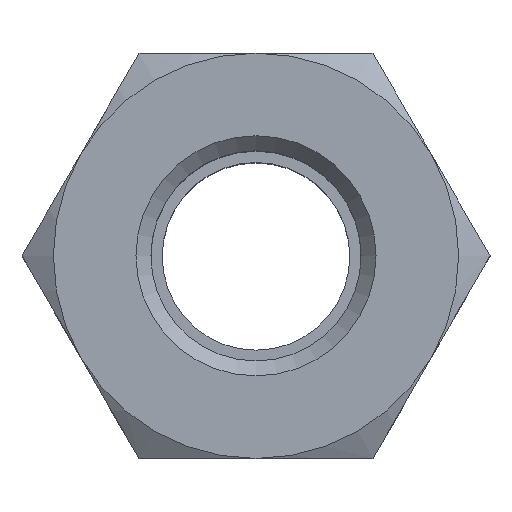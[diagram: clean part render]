
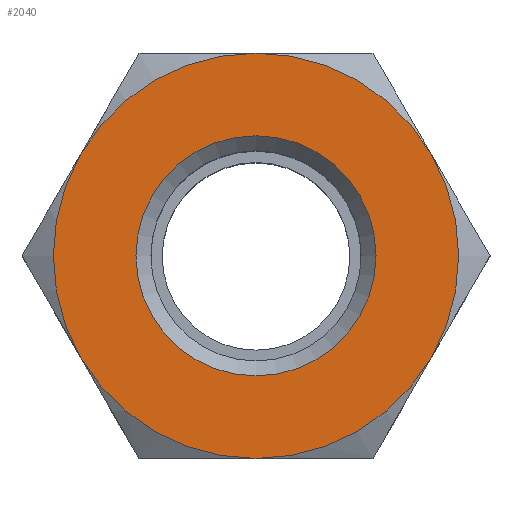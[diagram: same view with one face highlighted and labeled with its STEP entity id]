
A CAD part, top view. The second image highlights one B-rep face of the part: STEP entity #2040.
In plain terms, the highlighted planar face has unit normal (0, 0, 1).
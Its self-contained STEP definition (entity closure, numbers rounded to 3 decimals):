
#2040=ADVANCED_FACE('', (#2050,#2060), #2070, .T.);
#7190=AXIS2_PLACEMENT_3D('Ax2Pl3d', #7200, #7210, #7220);
#7230=AXIS2_PLACEMENT_3D('Ax2Pl3d', #7240, #7250, #7260);
#7270=AXIS2_PLACEMENT_3D('Ax2Pl3d', #7280, #7290, #7300);
#7310=AXIS2_PLACEMENT_3D('Ax2Pl3d', #7320, #7330, #7340);
#7350=AXIS2_PLACEMENT_3D('Ax2Pl3d', #7360, #7370, #7380);
#7390=AXIS2_PLACEMENT_3D('Ax2Pl3d', #7400, #7410, #7420);
#7430=AXIS2_PLACEMENT_3D('Ax2Pl3d', #7440, #7450, #7460);
#7470=AXIS2_PLACEMENT_3D('Ax2Pl3d', #7480, #7490, #7500);
#11460=CARTESIAN_POINT('', (13.86,25.068,51.319));
#11530=CARTESIAN_POINT('', (25.551,31.818,51.319));
#11590=CARTESIAN_POINT('', (13.86,11.568,51.319));
#11670=CARTESIAN_POINT('', (25.551,4.818,51.319));
#11720=CARTESIAN_POINT('', (37.242,25.068,51.319));
#11750=CARTESIAN_POINT('', (37.242,11.568,51.319));
#7200=CARTESIAN_POINT('HicPkt', (25.551,18.318,51.319));
#7240=CARTESIAN_POINT('HicPkt', (25.551,4.818,51.319));
#7280=CARTESIAN_POINT('HicPkt', (25.551,18.318,51.319));
#7320=CARTESIAN_POINT('HicPkt', (25.551,18.318,51.319));
#7360=CARTESIAN_POINT('HicPkt', (25.551,18.318,51.319));
#7400=CARTESIAN_POINT('HicPkt', (25.551,18.318,51.319));
#7440=CARTESIAN_POINT('HicPkt', (25.551,18.318,51.319));
#7480=CARTESIAN_POINT('HicPkt', (25.551,18.318,51.319));
#11760=CARTESIAN_POINT('', (25.551,26.318,51.319));
#12310=CIRCLE('Circle', #7190, 13.5);
#12320=CIRCLE('Circle', #7270, 13.5);
#12330=CIRCLE('Circle', #7310, 13.5);
#12340=CIRCLE('Circle', #7350, 13.5);
#12350=CIRCLE('Circle', #7390, 13.5);
#12360=CIRCLE('Circle', #7430, 13.5);
#12370=CIRCLE('Circle', #7470, 8.);
#7210=DIRECTION('Axis', (0.,0.,-1.));
#7220=DIRECTION('RefDirection', (-1.,-0.,0.));
#7250=DIRECTION('Axis', (0.,0.,1.));
#7260=DIRECTION('RefDirection', (1.,0.,-0.));
#7290=DIRECTION('Axis', (0.,0.,-1.));
#7300=DIRECTION('RefDirection', (-1.,-0.,0.));
#7330=DIRECTION('Axis', (0.,0.,-1.));
#7340=DIRECTION('RefDirection', (-1.,-0.,0.));
#7370=DIRECTION('Axis', (0.,0.,-1.));
#7380=DIRECTION('RefDirection', (-1.,-0.,0.));
#7410=DIRECTION('Axis', (0.,0.,-1.));
#7420=DIRECTION('RefDirection', (-1.,-0.,0.));
#7450=DIRECTION('Axis', (0.,0.,-1.));
#7460=DIRECTION('RefDirection', (-1.,-0.,0.));
#7490=DIRECTION('Axis', (0.,0.,-1.));
#7500=DIRECTION('RefDirection', (-1.,-0.,0.));
#18450=EDGE_CURVE('', #18180, #18030, #12310, .T.);
#18460=EDGE_CURVE('', #18420, #18180, #12320, .T.);
#18470=EDGE_CURVE('', #18350, #18420, #12330, .T.);
#18480=EDGE_CURVE('', #17920, #18350, #12340, .T.);
#18490=EDGE_CURVE('', #17790, #17920, #12350, .T.);
#18500=EDGE_CURVE('', #18030, #17790, #12360, .T.);
#18510=EDGE_CURVE('', #18520, #18520, #12370, .T.);
#21300=EDGE_LOOP('Edge_loop', (#21310,#21320,#21330,#21340,#21350,
#21360));
#21370=EDGE_LOOP('Edge_loop', (#21380));
#2060=FACE_BOUND('', #21370, .T.);
#2050=FACE_OUTER_BOUND('Face_outer_bound', #21300, .T.);
#21310=ORIENTED_EDGE('', *, *, #18450, .F.);
#21320=ORIENTED_EDGE('', *, *, #18460, .F.);
#21330=ORIENTED_EDGE('', *, *, #18470, .F.);
#21340=ORIENTED_EDGE('', *, *, #18480, .F.);
#21350=ORIENTED_EDGE('', *, *, #18490, .F.);
#21360=ORIENTED_EDGE('', *, *, #18500, .F.);
#21380=ORIENTED_EDGE('', *, *, #18510, .T.);
#2070=PLANE('Plane', #7230);
#17790=VERTEX_POINT('', #11460);
#17920=VERTEX_POINT('', #11530);
#18030=VERTEX_POINT('', #11590);
#18180=VERTEX_POINT('', #11670);
#18350=VERTEX_POINT('', #11720);
#18420=VERTEX_POINT('', #11750);
#18520=VERTEX_POINT('', #11760);
